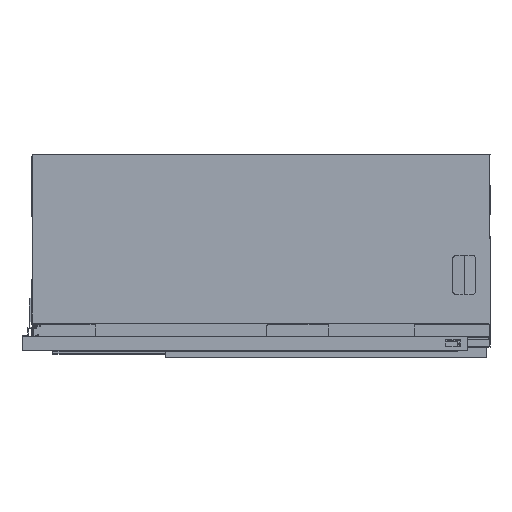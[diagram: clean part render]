
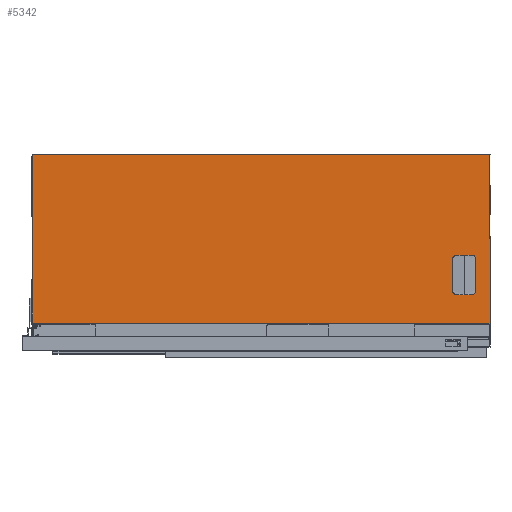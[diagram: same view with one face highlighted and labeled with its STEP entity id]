
A CAD part, left-side view. The second image highlights one B-rep face of the part: STEP entity #5342.
In plain terms, the highlighted planar face has unit normal (-1, 0, 0).
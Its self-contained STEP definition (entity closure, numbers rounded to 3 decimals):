
#306 = DIRECTION ( 'NONE',  ( -1., 0., 0. ) ) ;
#1102 = VERTEX_POINT ( 'NONE', #15065 ) ;
#1208 = CARTESIAN_POINT ( 'NONE',  ( -13.5, 30., 0. ) ) ;
#1221 = DIRECTION ( 'NONE',  ( 0., 1., 0. ) ) ;
#1362 = EDGE_LOOP ( 'NONE', ( #13328, #4144, #5791, #7072 ) ) ;
#1861 = LINE ( 'NONE', #5621, #11071 ) ;
#2412 = DIRECTION ( 'NONE',  ( 0., 1., 0. ) ) ;
#2482 = CARTESIAN_POINT ( 'NONE',  ( -13.5, 248.5, -590. ) ) ;
#3163 = LINE ( 'NONE', #12849, #6938 ) ;
#4144 = ORIENTED_EDGE ( 'NONE', *, *, #5212, .F. ) ;
#4496 = EDGE_CURVE ( 'NONE', #12982, #1102, #15006, .T. ) ;
#4807 = CARTESIAN_POINT ( 'NONE',  ( -13.5, 248.5, 0. ) ) ;
#5212 = EDGE_CURVE ( 'NONE', #1102, #9031, #1861, .T. ) ;
#5228 = DIRECTION ( 'NONE',  ( 0., 1., 0. ) ) ;
#5311 = CARTESIAN_POINT ( 'NONE',  ( -13.5, 248.5, -590. ) ) ;
#5342 = ADVANCED_FACE ( 'NONE', ( #13455 ), #7141, .T. ) ;
#5375 = VECTOR ( 'NONE', #5228, 1000. ) ;
#5621 = CARTESIAN_POINT ( 'NONE',  ( -13.5, 248.5, -590. ) ) ;
#5647 = DIRECTION ( 'NONE',  ( 0., 0., 1. ) ) ;
#5700 = AXIS2_PLACEMENT_3D ( 'NONE', #2482, #306, #2412 ) ;
#5791 = ORIENTED_EDGE ( 'NONE', *, *, #4496, .F. ) ;
#6081 = CARTESIAN_POINT ( 'NONE',  ( -13.5, 30., -590. ) ) ;
#6938 = VECTOR ( 'NONE', #5647, 1000. ) ;
#7072 = ORIENTED_EDGE ( 'NONE', *, *, #8005, .T. ) ;
#7108 = EDGE_CURVE ( 'NONE', #8787, #9031, #10435, .T. ) ;
#7141 = PLANE ( 'NONE',  #5700 ) ;
#8005 = EDGE_CURVE ( 'NONE', #12982, #8787, #3163, .T. ) ;
#8787 = VERTEX_POINT ( 'NONE', #1208 ) ;
#9031 = VERTEX_POINT ( 'NONE', #11197 ) ;
#10435 = LINE ( 'NONE', #4807, #12682 ) ;
#11071 = VECTOR ( 'NONE', #12986, 1000. ) ;
#11197 = CARTESIAN_POINT ( 'NONE',  ( -13.5, 248.5, 0. ) ) ;
#12682 = VECTOR ( 'NONE', #1221, 1000. ) ;
#12849 = CARTESIAN_POINT ( 'NONE',  ( -13.5, 30., -590. ) ) ;
#12982 = VERTEX_POINT ( 'NONE', #6081 ) ;
#12986 = DIRECTION ( 'NONE',  ( 0., 0., 1. ) ) ;
#13328 = ORIENTED_EDGE ( 'NONE', *, *, #7108, .T. ) ;
#13455 = FACE_OUTER_BOUND ( 'NONE', #1362, .T. ) ;
#15006 = LINE ( 'NONE', #5311, #5375 ) ;
#15065 = CARTESIAN_POINT ( 'NONE',  ( -13.5, 248.5, -590. ) ) ;
